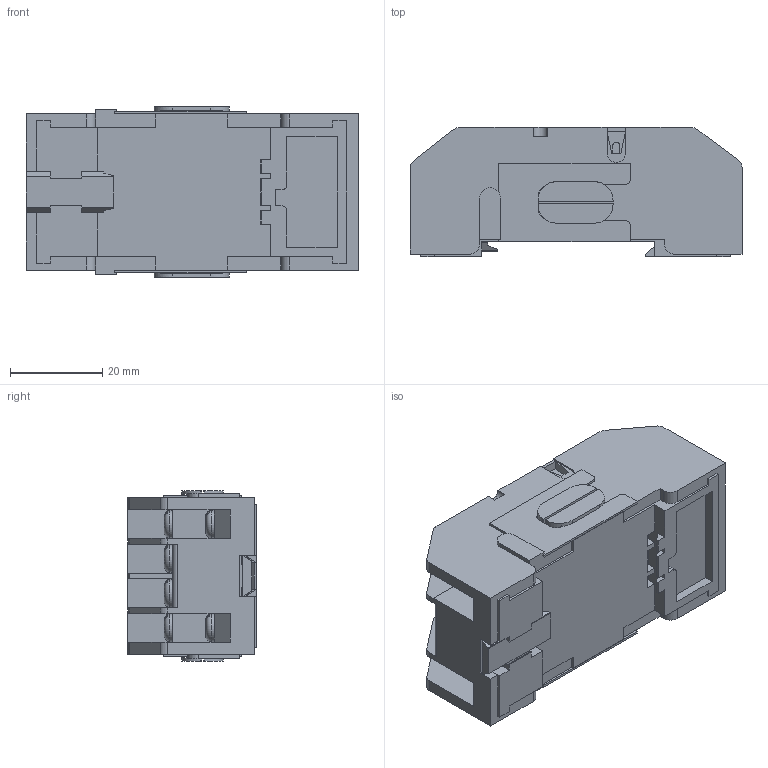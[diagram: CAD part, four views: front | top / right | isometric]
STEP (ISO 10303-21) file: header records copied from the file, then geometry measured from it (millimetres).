
FILE_DESCRIPTION(('STEP AP214'), '1');
FILE_NAME('Êîëîäêà ÐÏ21-004 òèï 2', '', ('UNSPECIFIED'), ('UNSPECIFIED'), 'ASCON STEP Converter 1.6', 'ASCON Math Kernel', '');
FILE_SCHEMA(('AUTOMOTIVE_DESIGN { 1 0 10303 214 3 1 1}'));
Length unit declared in the file: millimetre
Assembly tree (20 placements, depth 3):
  (unnamed)
    (unnamed)
    (unnamed)  x2
    (unnamed)
    (unnamed)  x14
      (unnamed)
      (unnamed)
Bounding box: 72.1 x 28 x 37 mm (x, y, z)
Volume: 50599.7 mm3; surface area: 20907 mm2
Topology: 32 solids, 32 shells, 809 faces, 2053 edges, 1346 vertices
Faces by surface type: plane 685, cylinder 96, torus 14, cone 14
Full cylindrical faces by diameter (mm): 2.85 x14, 3 x14, 6 x14
Entity records: 22738 total; most frequent: CARTESIAN_POINT 3230, ORIENTED_EDGE 3062, DIRECTION 2811, EDGE_CURVE 1531, LINE 1407, VECTOR 1407, VERTEX_POINT 1011, AXIS2_PLACEMENT_3D 702
